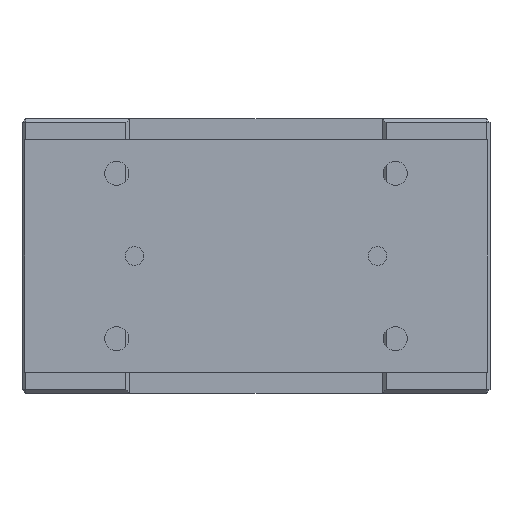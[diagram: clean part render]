
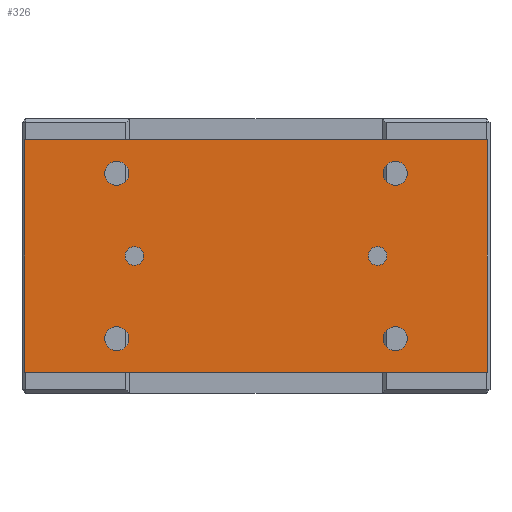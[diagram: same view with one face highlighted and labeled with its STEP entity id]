
A CAD part, left-side view. The second image highlights one B-rep face of the part: STEP entity #326.
In plain terms, the highlighted planar face has unit normal (-1, 0, 0).
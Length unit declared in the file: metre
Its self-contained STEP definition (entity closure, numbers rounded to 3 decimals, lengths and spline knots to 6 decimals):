
#326 = ADVANCED_FACE( '', ( #863, #864, #865, #866, #867, #868, #869 ), #870, .T. );
#863 = FACE_BOUND( '', #1757, .T. );
#864 = FACE_BOUND( '', #1758, .T. );
#865 = FACE_BOUND( '', #1759, .T. );
#866 = FACE_BOUND( '', #1760, .T. );
#867 = FACE_BOUND( '', #1761, .T. );
#868 = FACE_BOUND( '', #1762, .T. );
#869 = FACE_OUTER_BOUND( '', #1763, .T. );
#870 = PLANE( '', #1764 );
#1757 = EDGE_LOOP( '', ( #2741 ) );
#1758 = EDGE_LOOP( '', ( #2742 ) );
#1759 = EDGE_LOOP( '', ( #2743 ) );
#1760 = EDGE_LOOP( '', ( #2744 ) );
#1761 = EDGE_LOOP( '', ( #2745 ) );
#1762 = EDGE_LOOP( '', ( #2746 ) );
#1763 = EDGE_LOOP( '', ( #2747, #2748, #2749, #2750 ) );
#1764 = AXIS2_PLACEMENT_3D( '', #2751, #2752, #2753 );
#2741 = ORIENTED_EDGE( '', *, *, #4403, .F. );
#2742 = ORIENTED_EDGE( '', *, *, #4404, .T. );
#2743 = ORIENTED_EDGE( '', *, *, #4405, .F. );
#2744 = ORIENTED_EDGE( '', *, *, #4406, .F. );
#2745 = ORIENTED_EDGE( '', *, *, #4407, .F. );
#2746 = ORIENTED_EDGE( '', *, *, #4408, .F. );
#2747 = ORIENTED_EDGE( '', *, *, #4409, .T. );
#2748 = ORIENTED_EDGE( '', *, *, #4410, .T. );
#2749 = ORIENTED_EDGE( '', *, *, #4411, .T. );
#2750 = ORIENTED_EDGE( '', *, *, #4412, .T. );
#2751 = CARTESIAN_POINT( '', ( -0.143, -0.1245, -0.0115 ) );
#2752 = DIRECTION( '', ( -1., 0., 0. ) );
#2753 = DIRECTION( '', ( 0., 0., 1. ) );
#4403 = EDGE_CURVE( '', #5116, #5116, #5117, .T. );
#4404 = EDGE_CURVE( '', #5118, #5118, #5119, .T. );
#4405 = EDGE_CURVE( '', #5120, #5120, #5121, .T. );
#4406 = EDGE_CURVE( '', #5122, #5122, #5123, .T. );
#4407 = EDGE_CURVE( '', #5124, #5124, #5125, .T. );
#4408 = EDGE_CURVE( '', #5126, #5126, #5127, .T. );
#4409 = EDGE_CURVE( '', #5128, #5129, #5130, .T. );
#4410 = EDGE_CURVE( '', #5129, #5131, #5132, .T. );
#4411 = EDGE_CURVE( '', #5131, #5133, #5134, .T. );
#4412 = EDGE_CURVE( '', #5133, #5128, #5135, .T. );
#5116 = VERTEX_POINT( '', #6137 );
#5117 = CIRCLE( '', #6138, 0.005 );
#5118 = VERTEX_POINT( '', #6139 );
#5119 = CIRCLE( '', #6140, 0.005 );
#5120 = VERTEX_POINT( '', #6141 );
#5121 = CIRCLE( '', #6142, 0.0065 );
#5122 = VERTEX_POINT( '', #6143 );
#5123 = CIRCLE( '', #6144, 0.0065 );
#5124 = VERTEX_POINT( '', #6145 );
#5125 = CIRCLE( '', #6146, 0.0065 );
#5126 = VERTEX_POINT( '', #6147 );
#5127 = CIRCLE( '', #6148, 0.0065 );
#5128 = VERTEX_POINT( '', #6149 );
#5129 = VERTEX_POINT( '', #6150 );
#5130 = LINE( '', #6151, #6152 );
#5131 = VERTEX_POINT( '', #6153 );
#5132 = LINE( '', #6154, #6155 );
#5133 = VERTEX_POINT( '', #6156 );
#5134 = LINE( '', #6157, #6158 );
#5135 = LINE( '', #6159, #6160 );
#6137 = CARTESIAN_POINT( '', ( -0.143, -0.0705, -0.074 ) );
#6138 = AXIS2_PLACEMENT_3D( '', #7425, #7426, #7427 );
#6139 = CARTESIAN_POINT( '', ( -0.143, 0.0705, -0.074 ) );
#6140 = AXIS2_PLACEMENT_3D( '', #7428, #7429, #7430 );
#6141 = CARTESIAN_POINT( '', ( -0.143, -0.075, -0.112 ) );
#6142 = AXIS2_PLACEMENT_3D( '', #7431, #7432, #7433 );
#6143 = CARTESIAN_POINT( '', ( -0.143, 0.075, -0.112 ) );
#6144 = AXIS2_PLACEMENT_3D( '', #7434, #7435, #7436 );
#6145 = CARTESIAN_POINT( '', ( -0.143, -0.075, -0.023 ) );
#6146 = AXIS2_PLACEMENT_3D( '', #7437, #7438, #7439 );
#6147 = CARTESIAN_POINT( '', ( -0.143, 0.075, -0.023 ) );
#6148 = AXIS2_PLACEMENT_3D( '', #7440, #7441, #7442 );
#6149 = CARTESIAN_POINT( '', ( -0.143, -0.1245, -0.1365 ) );
#6150 = CARTESIAN_POINT( '', ( -0.143, -0.1245, -0.0115 ) );
#6151 = CARTESIAN_POINT( '', ( -0.143, -0.1245, -0.1365 ) );
#6152 = VECTOR( '', #7443, 1. );
#6153 = CARTESIAN_POINT( '', ( -0.143, 0.1245, -0.0115 ) );
#6154 = CARTESIAN_POINT( '', ( -0.143, -0.1245, -0.0115 ) );
#6155 = VECTOR( '', #7444, 1. );
#6156 = CARTESIAN_POINT( '', ( -0.143, 0.1245, -0.1365 ) );
#6157 = CARTESIAN_POINT( '', ( -0.143, 0.1245, -0.0115 ) );
#6158 = VECTOR( '', #7445, 1. );
#6159 = CARTESIAN_POINT( '', ( -0.143, 0.1245, -0.1365 ) );
#6160 = VECTOR( '', #7446, 1. );
#7425 = CARTESIAN_POINT( '', ( -0.143, -0.0655, -0.074 ) );
#7426 = DIRECTION( '', ( -1., 0., 0. ) );
#7427 = DIRECTION( '', ( 0., -1., 0. ) );
#7428 = CARTESIAN_POINT( '', ( -0.143, 0.0655, -0.074 ) );
#7429 = DIRECTION( '', ( 1., 0., 0. ) );
#7430 = DIRECTION( '', ( 0., 1., 0. ) );
#7431 = CARTESIAN_POINT( '', ( -0.143, -0.075, -0.1185 ) );
#7432 = DIRECTION( '', ( -1., 0., 0. ) );
#7433 = DIRECTION( '', ( 0., 0., 1. ) );
#7434 = CARTESIAN_POINT( '', ( -0.143, 0.075, -0.1185 ) );
#7435 = DIRECTION( '', ( -1., 0., 0. ) );
#7436 = DIRECTION( '', ( 0., 0., 1. ) );
#7437 = CARTESIAN_POINT( '', ( -0.143, -0.075, -0.0295 ) );
#7438 = DIRECTION( '', ( -1., 0., 0. ) );
#7439 = DIRECTION( '', ( 0., 0., 1. ) );
#7440 = CARTESIAN_POINT( '', ( -0.143, 0.075, -0.0295 ) );
#7441 = DIRECTION( '', ( -1., 0., 0. ) );
#7442 = DIRECTION( '', ( 0., 0., 1. ) );
#7443 = DIRECTION( '', ( 0., 0., 1. ) );
#7444 = DIRECTION( '', ( 0., 1., 0. ) );
#7445 = DIRECTION( '', ( 0., 0., -1. ) );
#7446 = DIRECTION( '', ( 0., -1., 0. ) );
